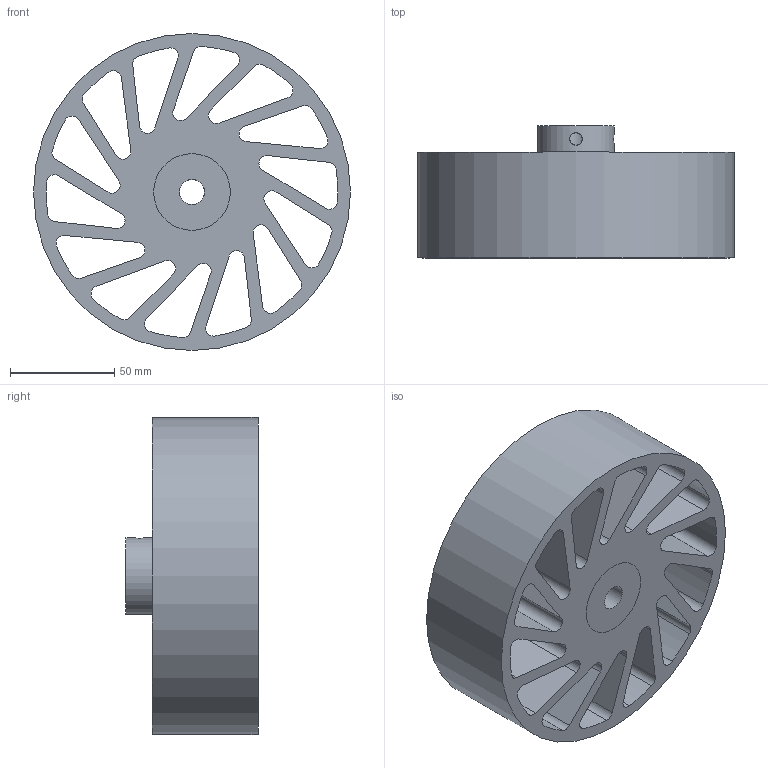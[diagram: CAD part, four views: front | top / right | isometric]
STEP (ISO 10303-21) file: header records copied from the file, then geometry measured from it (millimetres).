
FILE_DESCRIPTION(/* description */ (''),/* implementation_level */ '2;1');
FILE_NAME(/* name */ 'NCWM-600-XXX-YYY.stp',/* time_stamp */ '2023-02-02T16:51:13-06:00',/* author */ ('AG'),/* organization */ ('Meridian Laboratory'),/* preprocessor_version */ 'ST-DEVELOPER v18.1',/* originating_system */ 'Autodesk Inventor 2022',/* authorisation */ '');
FILE_SCHEMA (('AUTOMOTIVE_DESIGN { 1 0 10303 214 3 1 1 }'));
Length unit declared in the file: millimetre
Products named in the file (1): NCWM-540
Bounding box: 152.4 x 63.5 x 152.4 mm (x, y, z)
Volume: 525211 mm3; surface area: 134341.1 mm2
Topology: 2 solids, 2 shells, 94 faces, 276 edges, 186 vertices
Faces by surface type: cylinder 62, plane 32
Full cylindrical faces by diameter (mm): 6 x2, 12.025 x1, 36.83 x2, 152.4 x1
Entity records: 3516 total; most frequent: CARTESIAN_POINT 697, DIRECTION 576, ORIENTED_EDGE 552, EDGE_CURVE 276, AXIS2_PLACEMENT_3D 215, VERTEX_POINT 186, LINE 146, VECTOR 146
